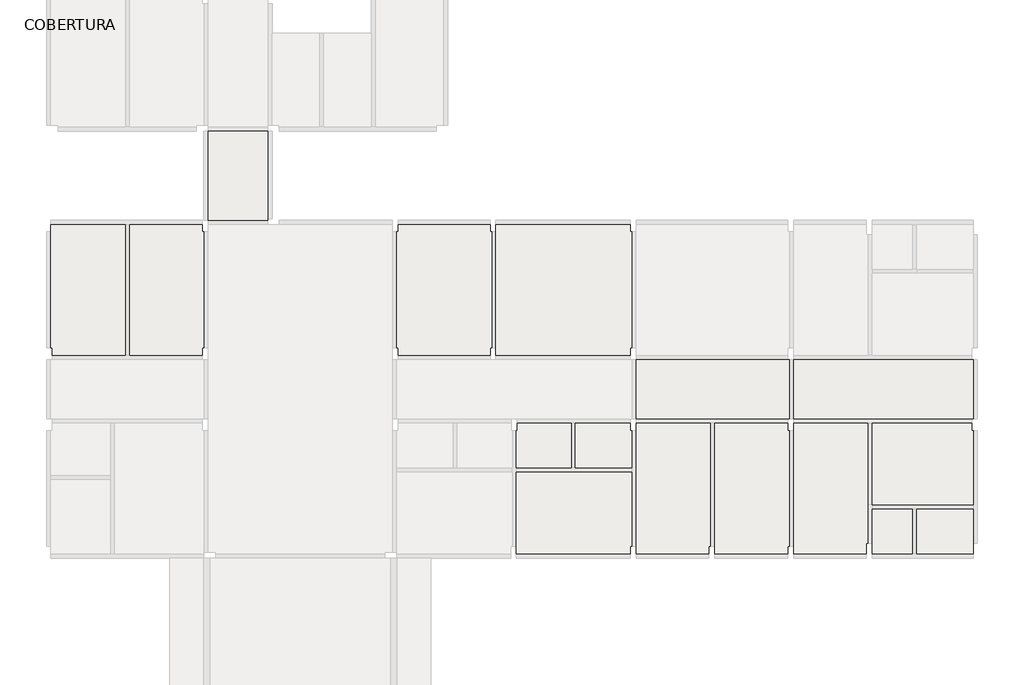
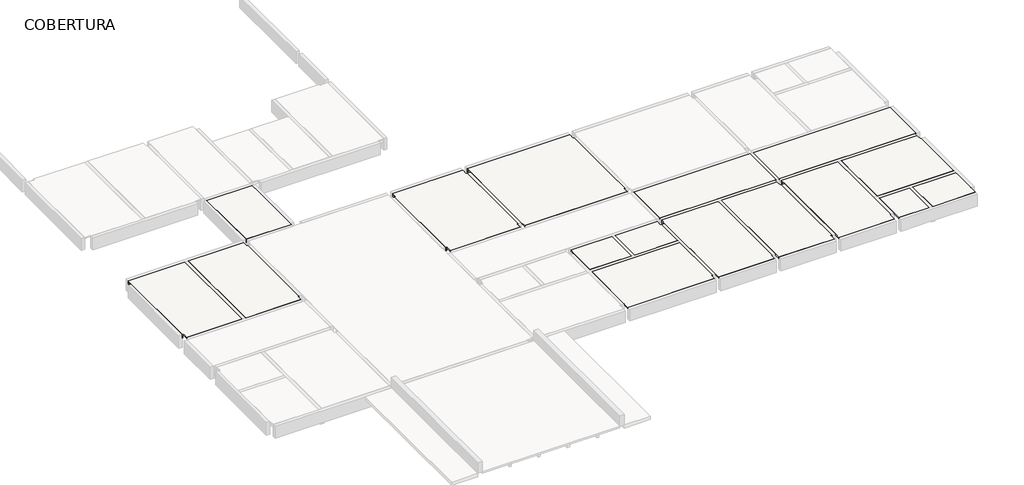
# One storey, part 2 of 5: 32 slabs.
"""IFC4 building model written with IfcOpenShell, lengths in millimetres."""

from ifc_helpers import new_model, si_unit, frame, origin, place, context, project, spatial, polyline, outline, extrude, faceted_brep, element, save

model = new_model("IFC4")

# Units and contexts
model_context = context("Model", 3, world=origin())
ifc_project = project(units=[si_unit("LENGTHUNIT", "METRE", prefix="MILLI")], contexts=[model_context])

# Site, building, storey
site = spatial("IfcSite", under=ifc_project)
building = spatial("IfcBuilding", under=site)
storey = spatial("IfcBuildingStorey", under=building, Name="COBERTURA", Elevation=4800.0)

# Slabs
placement = place(None, origin())
element("IfcSlab", 1, ObjectType="h=5", at=placement, inside=storey, context=model_context, shape_type="Brep", body=[
    faceted_brep([(200.0, 7100.0, 4750.0), (150.0, 7100.0, 4750.0), (150.0, 11250.0, 4750.0), (2650.0, 11250.0, 4750.0), (2650.0, 6850.0, 4750.0), (200.0, 6850.0, 4750.0), (200.0, 7100.0, 4800.0), (200.0, 6850.0, 4800.0), (2650.0, 6850.0, 4800.0), (2650.0, 11250.0, 4800.0), (150.0, 11250.0, 4800.0), (150.0, 11000.0, 4800.0), (150.0, 7100.0, 4800.0)], [[[0, 1, 2, 3, 4, 5]], [[6, 7, 8, 9, 10, 11, 12]], [[1, 0, 6, 12]], [[2, 1, 12, 11, 10]], [[3, 2, 10, 9]], [[4, 3, 9, 8]], [[5, 4, 8, 7]], [[0, 5, 7, 6]]]),
])
element("IfcSlab", 2, ObjectType="h=10", at=placement, inside=storey, context=model_context, shape_type="SweptSolid", body=[
    extrude(outline(polyline([(150.0, 7100.0), (150.0, 11250.0), (2650.0, 11250.0), (2650.0, 11170.0), (1450.0, 11170.0), (1450.0, 10770.0), (2650.0, 10770.0), (2650.0, 10680.0), (1450.0, 10680.0), (1450.0, 10280.0), (2650.0, 10280.0), (2650.0, 10190.0), (1450.0, 10190.0), (1450.0, 9790.0), (2650.0, 9790.0), (2650.0, 9700.0), (1450.0, 9700.0), (1450.0, 9300.0), (2650.0, 9300.0), (2650.0, 9210.0), (1450.0, 9210.0), (1450.0, 8810.0), (2650.0, 8810.0), (2650.0, 8720.0), (1450.0, 8720.0), (1450.0, 8320.0), (2650.0, 8320.0), (2650.0, 8230.0), (1450.0, 8230.0), (1450.0, 7830.0), (2650.0, 7830.0), (2650.0, 7740.0), (1450.0, 7740.0), (1450.0, 7340.0), (2650.0, 7340.0), (2650.0, 7250.0), (1450.0, 7250.0), (1450.0, 6850.0), (1360.0, 6850.0), (1360.0, 7250.0), (160.0, 7250.0), (160.0, 7100.0), (150.0, 7100.0)]), holes=[polyline([(1360.0, 7740.0), (160.0, 7740.0), (160.0, 7340.0), (1360.0, 7340.0), (1360.0, 7740.0)]), polyline([(1360.0, 8230.0), (160.0, 8230.0), (160.0, 7830.0), (1360.0, 7830.0), (1360.0, 8230.0)]), polyline([(1360.0, 8720.0), (160.0, 8720.0), (160.0, 8320.0), (1360.0, 8320.0), (1360.0, 8720.0)]), polyline([(1360.0, 9210.0), (160.0, 9210.0), (160.0, 8810.0), (1360.0, 8810.0), (1360.0, 9210.0)]), polyline([(1360.0, 9700.0), (160.0, 9700.0), (160.0, 9300.0), (1360.0, 9300.0), (1360.0, 9700.0)]), polyline([(1360.0, 10190.0), (160.0, 10190.0), (160.0, 9790.0), (1360.0, 9790.0), (1360.0, 10190.0)]), polyline([(1360.0, 10680.0), (160.0, 10680.0), (160.0, 10280.0), (1360.0, 10280.0), (1360.0, 10680.0)]), polyline([(1360.0, 11170.0), (160.0, 11170.0), (160.0, 10770.0), (1360.0, 10770.0), (1360.0, 11170.0)])]), frame((0.0, 0.0, 4650.0), z_axis=(0.0, 0.0, 1.0), x_axis=(1.0, 0.0, 0.0)), (0.0, 0.0, 1.0), 100.0),
])
element("IfcSlab", 3, ObjectType="h=5", at=placement, inside=storey, context=model_context, shape_type="SweptSolid", body=[
    extrude(outline(polyline([(2800.0, 11250.0), (5250.0, 11250.0), (5250.0, 11000.0), (5300.0, 11000.0), (5300.0, 7100.0), (5250.0, 7100.0), (5250.0, 6850.0), (2800.0, 6850.0), (2800.0, 11250.0)])), frame((0.0, 0.0, 4750.0), z_axis=(0.0, 0.0, 1.0), x_axis=(1.0, 0.0, 0.0)), (0.0, 0.0, 1.0), 50.0),
])
element("IfcSlab", 4, ObjectType="h=10", at=placement, inside=storey, context=model_context, shape_type="SweptSolid", body=[
    extrude(outline(polyline([(2800.0, 11250.0), (5250.0, 11250.0), (5250.0, 11170.0), (4090.0, 11170.0), (4090.0, 10770.0), (5290.0, 10770.0), (5290.0, 11000.0), (5300.0, 11000.0), (5300.0, 7100.0), (5290.0, 7100.0), (5290.0, 7250.0), (4090.0, 7250.0), (4090.0, 6850.0), (4000.0, 6850.0), (4000.0, 7250.0), (2800.0, 7250.0), (2800.0, 7340.0), (4000.0, 7340.0), (4000.0, 7740.0), (2800.0, 7740.0), (2800.0, 7830.0), (4000.0, 7830.0), (4000.0, 8230.0), (2800.0, 8230.0), (2800.0, 8320.0), (4000.0, 8320.0), (4000.0, 8720.0), (2800.0, 8720.0), (2800.0, 8810.0), (4000.0, 8810.0), (4000.0, 9210.0), (2800.0, 9210.0), (2800.0, 9300.0), (4000.0, 9300.0), (4000.0, 9700.0), (2800.0, 9700.0), (2800.0, 9790.0), (4000.0, 9790.0), (4000.0, 10190.0), (2800.0, 10190.0), (2800.0, 10280.0), (4000.0, 10280.0), (4000.0, 10680.0), (2800.0, 10680.0), (2800.0, 10770.0), (4000.0, 10770.0), (4000.0, 11170.0), (2800.0, 11170.0), (2800.0, 11250.0)]), holes=[polyline([(5290.0, 7740.0), (4090.0, 7740.0), (4090.0, 7340.0), (5290.0, 7340.0), (5290.0, 7740.0)]), polyline([(5290.0, 8230.0), (4090.0, 8230.0), (4090.0, 7830.0), (5290.0, 7830.0), (5290.0, 8230.0)]), polyline([(5290.0, 8720.0), (4090.0, 8720.0), (4090.0, 8320.0), (5290.0, 8320.0), (5290.0, 8720.0)]), polyline([(5290.0, 9210.0), (4090.0, 9210.0), (4090.0, 8810.0), (5290.0, 8810.0), (5290.0, 9210.0)]), polyline([(5290.0, 9700.0), (4090.0, 9700.0), (4090.0, 9300.0), (5290.0, 9300.0), (5290.0, 9700.0)]), polyline([(5290.0, 10190.0), (4090.0, 10190.0), (4090.0, 9790.0), (5290.0, 9790.0), (5290.0, 10190.0)]), polyline([(5290.0, 10680.0), (4090.0, 10680.0), (4090.0, 10280.0), (5290.0, 10280.0), (5290.0, 10680.0)])]), frame((0.0, 0.0, 4650.0), z_axis=(0.0, 0.0, 1.0), x_axis=(1.0, 0.0, 0.0)), (0.0, 0.0, 1.0), 100.0),
])
element("IfcSlab", 5, ObjectType="h=5", at=placement, inside=storey, context=model_context, shape_type="SweptSolid", body=[
    extrude(outline(polyline([(15865.0, 4550.0), (17680.0, 4550.0), (17680.0, 3050.0), (15840.0, 3050.0), (15840.0, 4300.0), (15865.0, 4300.0), (15865.0, 4550.0)])), frame((0.0, 0.0, 4750.0), z_axis=(0.0, 0.0, 1.0), x_axis=(1.0, 0.0, 0.0)), (0.0, 0.0, 1.0), 50.0),
])
element("IfcSlab", 6, ObjectType="h=10", at=placement, inside=storey, context=model_context, shape_type="SweptSolid", body=[
    extrude(outline(polyline([(15840.0, 4300.0), (15865.0, 4300.0), (15865.0, 4340.0), (16210.0, 4340.0), (16210.0, 4550.0), (16300.0, 4550.0), (16300.0, 4340.0), (16700.0, 4340.0), (16700.0, 4550.0), (16790.0, 4550.0), (16790.0, 4340.0), (17190.0, 4340.0), (17190.0, 4550.0), (17280.0, 4550.0), (17280.0, 4340.0), (17680.0, 4340.0), (17680.0, 4250.0), (17280.0, 4250.0), (17280.0, 3050.0), (17190.0, 3050.0), (17190.0, 4250.0), (16790.0, 4250.0), (16790.0, 3050.0), (16700.0, 3050.0), (16700.0, 4250.0), (16300.0, 4250.0), (16300.0, 3050.0), (16210.0, 3050.0), (16210.0, 4250.0), (15840.0, 4250.0), (15840.0, 4300.0)])), frame((0.0, 0.0, 4650.0), z_axis=(0.0, 0.0, 1.0), x_axis=(1.0, 0.0, 0.0)), (0.0, 0.0, 1.0), 100.0),
])
element("IfcSlab", 7, ObjectType="h=5", at=placement, inside=storey, context=model_context, shape_type="SweptSolid", body=[
    extrude(outline(polyline([(17830.0, 4550.0), (19680.0, 4550.0), (19680.0, 4300.0), (19730.0, 4300.0), (19730.0, 3050.0), (17830.0, 3050.0), (17830.0, 4550.0)])), frame((0.0, 0.0, 4750.0), z_axis=(0.0, 0.0, 1.0), x_axis=(1.0, 0.0, 0.0)), (0.0, 0.0, 1.0), 50.0),
])
element("IfcSlab", 8, ObjectType="h=10", at=placement, inside=storey, context=model_context, shape_type="SweptSolid", body=[
    extrude(outline(polyline([(19680.0, 4300.0), (19730.0, 4300.0), (19730.0, 3050.0), (19700.0, 3050.0), (19700.0, 4250.0), (19300.0, 4250.0), (19300.0, 3050.0), (19210.0, 3050.0), (19210.0, 4250.0), (18810.0, 4250.0), (18810.0, 3050.0), (18720.0, 3050.0), (18720.0, 4250.0), (18320.0, 4250.0), (18320.0, 3050.0), (18230.0, 3050.0), (18230.0, 4250.0), (17830.0, 4250.0), (17830.0, 4340.0), (18230.0, 4340.0), (18230.0, 4550.0), (18320.0, 4550.0), (18320.0, 4340.0), (18720.0, 4340.0), (18720.0, 4550.0), (18810.0, 4550.0), (18810.0, 4340.0), (19210.0, 4340.0), (19210.0, 4550.0), (19300.0, 4550.0), (19300.0, 4340.0), (19680.0, 4340.0), (19680.0, 4300.0)])), frame((0.0, 0.0, 4650.0), z_axis=(0.0, 0.0, 1.0), x_axis=(1.0, 0.0, 0.0)), (0.0, 0.0, 1.0), 100.0),
])
element("IfcSlab", 9, ObjectType="h=5", at=placement, inside=storey, context=model_context, shape_type="Brep", body=[
    faceted_brep([(19680.0, 150.0, 4750.0), (15840.0, 150.0, 4750.0), (15840.0, 2900.0, 4750.0), (19730.0, 2900.0, 4750.0), (19730.0, 400.0, 4750.0), (19680.0, 400.0, 4750.0), (19680.0, 150.0, 4800.0), (19680.0, 400.0, 4800.0), (19730.0, 400.0, 4800.0), (19730.0, 2900.0, 4800.0), (15840.0, 2900.0, 4800.0), (15840.0, 400.0, 4800.0), (15840.0, 150.0, 4800.0)], [[[0, 1, 2, 3, 4, 5]], [[6, 7, 8, 9, 10, 11, 12]], [[1, 0, 6, 12]], [[2, 1, 12, 11, 10]], [[3, 2, 10, 9]], [[4, 3, 9, 8]], [[5, 4, 8, 7]], [[0, 5, 7, 6]]]),
])
element("IfcSlab", 10, ObjectType="h=10", at=placement, inside=storey, context=model_context, shape_type="SweptSolid", body=[
    extrude(outline(polyline([(19730.0, 2900.0), (19730.0, 400.0), (19680.0, 400.0), (19680.0, 150.0), (19670.0, 150.0), (19670.0, 1350.0), (19270.0, 1350.0), (19270.0, 150.0), (19180.0, 150.0), (19180.0, 1350.0), (18780.0, 1350.0), (18780.0, 150.0), (18690.0, 150.0), (18690.0, 1350.0), (18290.0, 1350.0), (18290.0, 150.0), (18200.0, 150.0), (18200.0, 1350.0), (17800.0, 1350.0), (17800.0, 150.0), (17710.0, 150.0), (17710.0, 1350.0), (17310.0, 1350.0), (17310.0, 150.0), (17220.0, 150.0), (17220.0, 1350.0), (16820.0, 1350.0), (16820.0, 150.0), (16730.0, 150.0), (16730.0, 1350.0), (16330.0, 1350.0), (16330.0, 150.0), (16240.0, 150.0), (16240.0, 1350.0), (15840.0, 1350.0), (15840.0, 1440.0), (16240.0, 1440.0), (16240.0, 2640.0), (15840.0, 2640.0), (15840.0, 2730.0), (16240.0, 2730.0), (16240.0, 2900.0), (16330.0, 2900.0), (16330.0, 2730.0), (16730.0, 2730.0), (16730.0, 2900.0), (16820.0, 2900.0), (16820.0, 2730.0), (17220.0, 2730.0), (17220.0, 2900.0), (17310.0, 2900.0), (17310.0, 2730.0), (17710.0, 2730.0), (17710.0, 2900.0), (17800.0, 2900.0), (17800.0, 2730.0), (18200.0, 2730.0), (18200.0, 2900.0), (18290.0, 2900.0), (18290.0, 2730.0), (18690.0, 2730.0), (18690.0, 2900.0), (18780.0, 2900.0), (18780.0, 2730.0), (19180.0, 2730.0), (19180.0, 2900.0), (19270.0, 2900.0), (19270.0, 2730.0), (19670.0, 2730.0), (19670.0, 2900.0), (19730.0, 2900.0)]), holes=[polyline([(19270.0, 2640.0), (19270.0, 1440.0), (19670.0, 1440.0), (19670.0, 2640.0), (19270.0, 2640.0)]), polyline([(18780.0, 2640.0), (18780.0, 1440.0), (19180.0, 1440.0), (19180.0, 2640.0), (18780.0, 2640.0)]), polyline([(18290.0, 2640.0), (18290.0, 1440.0), (18690.0, 1440.0), (18690.0, 2640.0), (18290.0, 2640.0)]), polyline([(17800.0, 2640.0), (17800.0, 1440.0), (18200.0, 1440.0), (18200.0, 2640.0), (17800.0, 2640.0)]), polyline([(17310.0, 2640.0), (17310.0, 1440.0), (17710.0, 1440.0), (17710.0, 2640.0), (17310.0, 2640.0)]), polyline([(16820.0, 2640.0), (16820.0, 1440.0), (17220.0, 1440.0), (17220.0, 2640.0), (16820.0, 2640.0)]), polyline([(16330.0, 2640.0), (16330.0, 1440.0), (16730.0, 1440.0), (16730.0, 2640.0), (16330.0, 2640.0)])]), frame((0.0, 0.0, 4650.0), z_axis=(0.0, 0.0, 1.0), x_axis=(1.0, 0.0, 0.0)), (0.0, 0.0, 1.0), 100.0),
])
element("IfcSlab", 11, ObjectType="h=5", at=placement, inside=storey, context=model_context, shape_type="Brep", body=[
    faceted_brep([(22330.0, 150.0, 4750.0), (19880.0, 150.0, 4750.0), (19880.0, 4550.0, 4750.0), (22380.0, 4550.0, 4750.0), (22380.0, 400.0, 4750.0), (22330.0, 400.0, 4750.0), (22330.0, 150.0, 4800.0), (22330.0, 400.0, 4800.0), (22380.0, 400.0, 4800.0), (22380.0, 4550.0, 4800.0), (19880.0, 4550.0, 4800.0), (19880.0, 4300.0, 4800.0), (19880.0, 400.0, 4800.0), (19880.0, 150.0, 4800.0)], [[[0, 1, 2, 3, 4, 5]], [[6, 7, 8, 9, 10, 11, 12, 13]], [[1, 0, 6, 13]], [[2, 1, 13, 12, 11, 10]], [[3, 2, 10, 9]], [[4, 3, 9, 8]], [[5, 4, 8, 7]], [[0, 5, 7, 6]]]),
])
element("IfcSlab", 12, ObjectType="h=10", at=placement, inside=storey, context=model_context, shape_type="SweptSolid", body=[
    extrude(outline(polyline([(19880.0, 4550.0), (22380.0, 4550.0), (22380.0, 400.0), (22370.0, 400.0), (22370.0, 550.0), (21170.0, 550.0), (21170.0, 150.0), (21080.0, 150.0), (21080.0, 550.0), (19880.0, 550.0), (19880.0, 640.0), (21080.0, 640.0), (21080.0, 1040.0), (19880.0, 1040.0), (19880.0, 1130.0), (21080.0, 1130.0), (21080.0, 1530.0), (19880.0, 1530.0), (19880.0, 1620.0), (21080.0, 1620.0), (21080.0, 2020.0), (19880.0, 2020.0), (19880.0, 2110.0), (21080.0, 2110.0), (21080.0, 2510.0), (19880.0, 2510.0), (19880.0, 2600.0), (21080.0, 2600.0), (21080.0, 3000.0), (19880.0, 3000.0), (19880.0, 3090.0), (21080.0, 3090.0), (21080.0, 3490.0), (19880.0, 3490.0), (19880.0, 3580.0), (21080.0, 3580.0), (21080.0, 3980.0), (19880.0, 3980.0), (19880.0, 4070.0), (21080.0, 4070.0), (21080.0, 4470.0), (19880.0, 4470.0), (19880.0, 4550.0)]), holes=[polyline([(22370.0, 1040.0), (21170.0, 1040.0), (21170.0, 640.0), (22370.0, 640.0), (22370.0, 1040.0)]), polyline([(22370.0, 1530.0), (21170.0, 1530.0), (21170.0, 1130.0), (22370.0, 1130.0), (22370.0, 1530.0)]), polyline([(22370.0, 2020.0), (21170.0, 2020.0), (21170.0, 1620.0), (22370.0, 1620.0), (22370.0, 2020.0)]), polyline([(22370.0, 2510.0), (21170.0, 2510.0), (21170.0, 2110.0), (22370.0, 2110.0), (22370.0, 2510.0)]), polyline([(22370.0, 3000.0), (21170.0, 3000.0), (21170.0, 2600.0), (22370.0, 2600.0), (22370.0, 3000.0)]), polyline([(22370.0, 3490.0), (21170.0, 3490.0), (21170.0, 3090.0), (22370.0, 3090.0), (22370.0, 3490.0)]), polyline([(22370.0, 3980.0), (21170.0, 3980.0), (21170.0, 3580.0), (22370.0, 3580.0), (22370.0, 3980.0)]), polyline([(22370.0, 4470.0), (21170.0, 4470.0), (21170.0, 4070.0), (22370.0, 4070.0), (22370.0, 4470.0)])]), frame((0.0, 0.0, 4650.0), z_axis=(0.0, 0.0, 1.0), x_axis=(1.0, 0.0, 0.0)), (0.0, 0.0, 1.0), 100.0),
])
element("IfcSlab", 13, ObjectType="h=5", at=placement, inside=storey, context=model_context, shape_type="Brep", body=[
    faceted_brep([(24980.0, 150.0, 4750.0), (22530.0, 150.0, 4750.0), (22530.0, 4550.0, 4750.0), (24980.0, 4550.0, 4750.0), (24980.0, 4300.0, 4750.0), (25030.0, 4300.0, 4750.0), (25030.0, 400.0, 4750.0), (24980.0, 400.0, 4750.0), (24980.0, 150.0, 4800.0), (24980.0, 400.0, 4800.0), (25030.0, 400.0, 4800.0), (25030.0, 4300.0, 4800.0), (24980.0, 4300.0, 4800.0), (24980.0, 4550.0, 4800.0), (22530.0, 4550.0, 4800.0), (22530.0, 400.0, 4800.0), (22530.0, 150.0, 4800.0)], [[[0, 1, 2, 3, 4, 5, 6, 7]], [[8, 9, 10, 11, 12, 13, 14, 15, 16]], [[1, 0, 8, 16]], [[2, 1, 16, 15, 14]], [[3, 2, 14, 13]], [[4, 3, 13, 12]], [[5, 4, 12, 11]], [[6, 5, 11, 10]], [[7, 6, 10, 9]], [[0, 7, 9, 8]]]),
])
element("IfcSlab", 14, ObjectType="h=10", at=placement, inside=storey, context=model_context, shape_type="SweptSolid", body=[
    extrude(outline(polyline([(22530.0, 4550.0), (24980.0, 4550.0), (24980.0, 4470.0), (23820.0, 4470.0), (23820.0, 4070.0), (25020.0, 4070.0), (25020.0, 4300.0), (25030.0, 4300.0), (25030.0, 400.0), (25020.0, 400.0), (25020.0, 550.0), (23820.0, 550.0), (23820.0, 150.0), (23730.0, 150.0), (23730.0, 550.0), (22530.0, 550.0), (22530.0, 640.0), (23730.0, 640.0), (23730.0, 1040.0), (22530.0, 1040.0), (22530.0, 1130.0), (23730.0, 1130.0), (23730.0, 1530.0), (22530.0, 1530.0), (22530.0, 1620.0), (23730.0, 1620.0), (23730.0, 2020.0), (22530.0, 2020.0), (22530.0, 2110.0), (23730.0, 2110.0), (23730.0, 2510.0), (22530.0, 2510.0), (22530.0, 2600.0), (23730.0, 2600.0), (23730.0, 3000.0), (22530.0, 3000.0), (22530.0, 3090.0), (23730.0, 3090.0), (23730.0, 3490.0), (22530.0, 3490.0), (22530.0, 3580.0), (23730.0, 3580.0), (23730.0, 3980.0), (22530.0, 3980.0), (22530.0, 4070.0), (23730.0, 4070.0), (23730.0, 4470.0), (22530.0, 4470.0), (22530.0, 4550.0)]), holes=[polyline([(25020.0, 1040.0), (23820.0, 1040.0), (23820.0, 640.0), (25020.0, 640.0), (25020.0, 1040.0)]), polyline([(25020.0, 1530.0), (23820.0, 1530.0), (23820.0, 1130.0), (25020.0, 1130.0), (25020.0, 1530.0)]), polyline([(25020.0, 2020.0), (23820.0, 2020.0), (23820.0, 1620.0), (25020.0, 1620.0), (25020.0, 2020.0)]), polyline([(25020.0, 2510.0), (23820.0, 2510.0), (23820.0, 2110.0), (25020.0, 2110.0), (25020.0, 2510.0)]), polyline([(25020.0, 3000.0), (23820.0, 3000.0), (23820.0, 2600.0), (25020.0, 2600.0), (25020.0, 3000.0)]), polyline([(25020.0, 3490.0), (23820.0, 3490.0), (23820.0, 3090.0), (25020.0, 3090.0), (25020.0, 3490.0)]), polyline([(25020.0, 3980.0), (23820.0, 3980.0), (23820.0, 3580.0), (25020.0, 3580.0), (25020.0, 3980.0)])]), frame((0.0, 0.0, 4650.0), z_axis=(0.0, 0.0, 1.0), x_axis=(1.0, 0.0, 0.0)), (0.0, 0.0, 1.0), 100.0),
])
element("IfcSlab", 15, ObjectType="h=5", at=placement, inside=storey, context=model_context, shape_type="Brep", body=[
    faceted_brep([(27630.0, 150.0, 4750.0), (25180.0, 150.0, 4750.0), (25180.0, 4550.0, 4750.0), (27680.0, 4550.0, 4750.0), (27680.0, 500.0, 4750.0), (27630.0, 500.0, 4750.0), (27630.0, 150.0, 4800.0), (27630.0, 500.0, 4800.0), (27680.0, 500.0, 4800.0), (27680.0, 1800.0, 4800.0), (27680.0, 4550.0, 4800.0), (25180.0, 4550.0, 4800.0), (25180.0, 4300.0, 4800.0), (25180.0, 400.0, 4800.0), (25180.0, 150.0, 4800.0)], [[[0, 1, 2, 3, 4, 5]], [[6, 7, 8, 9, 10, 11, 12, 13, 14]], [[1, 0, 6, 14]], [[2, 1, 14, 13, 12, 11]], [[3, 2, 11, 10]], [[4, 3, 10, 9, 8]], [[5, 4, 8, 7]], [[0, 5, 7, 6]]]),
])
element("IfcSlab", 16, ObjectType="h=10", at=placement, inside=storey, context=model_context, shape_type="SweptSolid", body=[
    extrude(outline(polyline([(25180.0, 4550.0), (27680.0, 4550.0), (27680.0, 500.0), (27670.0, 500.0), (27670.0, 550.0), (26470.0, 550.0), (26470.0, 150.0), (26380.0, 150.0), (26380.0, 550.0), (25180.0, 550.0), (25180.0, 640.0), (26380.0, 640.0), (26380.0, 1040.0), (25180.0, 1040.0), (25180.0, 1130.0), (26380.0, 1130.0), (26380.0, 1530.0), (25180.0, 1530.0), (25180.0, 1620.0), (26380.0, 1620.0), (26380.0, 2020.0), (25180.0, 2020.0), (25180.0, 2110.0), (26380.0, 2110.0), (26380.0, 2510.0), (25180.0, 2510.0), (25180.0, 2600.0), (26380.0, 2600.0), (26380.0, 3000.0), (25180.0, 3000.0), (25180.0, 3090.0), (26380.0, 3090.0), (26380.0, 3490.0), (25180.0, 3490.0), (25180.0, 3580.0), (26380.0, 3580.0), (26380.0, 3980.0), (25180.0, 3980.0), (25180.0, 4070.0), (26380.0, 4070.0), (26380.0, 4470.0), (25180.0, 4470.0), (25180.0, 4550.0)]), holes=[polyline([(27670.0, 1040.0), (26470.0, 1040.0), (26470.0, 640.0), (27670.0, 640.0), (27670.0, 1040.0)]), polyline([(27670.0, 1530.0), (26470.0, 1530.0), (26470.0, 1130.0), (27670.0, 1130.0), (27670.0, 1530.0)]), polyline([(27670.0, 2020.0), (26470.0, 2020.0), (26470.0, 1620.0), (27670.0, 1620.0), (27670.0, 2020.0)]), polyline([(27670.0, 2510.0), (26470.0, 2510.0), (26470.0, 2110.0), (27670.0, 2110.0), (27670.0, 2510.0)]), polyline([(27670.0, 3000.0), (26470.0, 3000.0), (26470.0, 2600.0), (27670.0, 2600.0), (27670.0, 3000.0)]), polyline([(27670.0, 3490.0), (26470.0, 3490.0), (26470.0, 3090.0), (27670.0, 3090.0), (27670.0, 3490.0)]), polyline([(27670.0, 3980.0), (26470.0, 3980.0), (26470.0, 3580.0), (27670.0, 3580.0), (27670.0, 3980.0)]), polyline([(27670.0, 4470.0), (26470.0, 4470.0), (26470.0, 4070.0), (27670.0, 4070.0), (27670.0, 4470.0)])]), frame((0.0, 0.0, 4650.0), z_axis=(0.0, 0.0, 1.0), x_axis=(1.0, 0.0, 0.0)), (0.0, 0.0, 1.0), 100.0),
])
element("IfcSlab", 17, ObjectType="h=5", at=placement, inside=storey, context=model_context, shape_type="SweptSolid", body=[
    extrude(outline(polyline([(27830.0, 4550.0), (31180.0, 4550.0), (31180.0, 4300.0), (31230.0, 4300.0), (31230.0, 1800.0), (27830.0, 1800.0), (27830.0, 4550.0)])), frame((0.0, 0.0, 4750.0), z_axis=(0.0, 0.0, 1.0), x_axis=(1.0, 0.0, 0.0)), (0.0, 0.0, 1.0), 50.0),
])
element("IfcSlab", 18, ObjectType="h=10", at=placement, inside=storey, context=model_context, shape_type="SweptSolid", body=[
    extrude(outline(polyline([(31180.0, 4300.0), (31230.0, 4300.0), (31230.0, 4290.0), (30830.0, 4290.0), (30830.0, 3090.0), (31230.0, 3090.0), (31230.0, 3000.0), (30830.0, 3000.0), (30830.0, 1800.0), (30740.0, 1800.0), (30740.0, 3000.0), (30340.0, 3000.0), (30340.0, 1800.0), (30250.0, 1800.0), (30250.0, 3000.0), (29850.0, 3000.0), (29850.0, 1800.0), (29760.0, 1800.0), (29760.0, 3000.0), (29360.0, 3000.0), (29360.0, 1800.0), (29270.0, 1800.0), (29270.0, 3000.0), (28870.0, 3000.0), (28870.0, 1800.0), (28780.0, 1800.0), (28780.0, 3000.0), (28380.0, 3000.0), (28380.0, 1800.0), (28290.0, 1800.0), (28290.0, 3000.0), (27890.0, 3000.0), (27890.0, 1800.0), (27830.0, 1800.0), (27830.0, 4550.0), (27890.0, 4550.0), (27890.0, 4380.0), (28290.0, 4380.0), (28290.0, 4550.0), (28380.0, 4550.0), (28380.0, 4380.0), (28780.0, 4380.0), (28780.0, 4550.0), (28870.0, 4550.0), (28870.0, 4380.0), (29270.0, 4380.0), (29270.0, 4550.0), (29360.0, 4550.0), (29360.0, 4380.0), (29760.0, 4380.0), (29760.0, 4550.0), (29850.0, 4550.0), (29850.0, 4380.0), (30250.0, 4380.0), (30250.0, 4550.0), (30340.0, 4550.0), (30340.0, 4380.0), (30740.0, 4380.0), (30740.0, 4550.0), (30830.0, 4550.0), (30830.0, 4380.0), (31180.0, 4380.0), (31180.0, 4300.0)]), holes=[polyline([(30340.0, 4290.0), (30340.0, 3090.0), (30740.0, 3090.0), (30740.0, 4290.0), (30340.0, 4290.0)]), polyline([(29850.0, 4290.0), (29850.0, 3090.0), (30250.0, 3090.0), (30250.0, 4290.0), (29850.0, 4290.0)]), polyline([(29360.0, 4290.0), (29360.0, 3090.0), (29760.0, 3090.0), (29760.0, 4290.0), (29360.0, 4290.0)]), polyline([(28870.0, 4290.0), (28870.0, 3090.0), (29270.0, 3090.0), (29270.0, 4290.0), (28870.0, 4290.0)]), polyline([(28380.0, 4290.0), (28380.0, 3090.0), (28780.0, 3090.0), (28780.0, 4290.0), (28380.0, 4290.0)]), polyline([(27890.0, 4290.0), (27890.0, 3090.0), (28290.0, 3090.0), (28290.0, 4290.0), (27890.0, 4290.0)])]), frame((0.0, 0.0, 4650.0), z_axis=(0.0, 0.0, 1.0), x_axis=(1.0, 0.0, 0.0)), (0.0, 0.0, 1.0), 100.0),
])
element("IfcSlab", 19, ObjectType="h=5", at=placement, inside=storey, context=model_context, shape_type="Brep", body=[
    faceted_brep([(29180.0, 150.0, 4750.0), (27830.0, 150.0, 4750.0), (27830.0, 1650.0, 4750.0), (29180.0, 1650.0, 4750.0), (29180.0, 150.0, 4800.0), (29180.0, 1650.0, 4800.0), (27830.0, 1650.0, 4800.0), (27830.0, 500.0, 4800.0), (27830.0, 150.0, 4800.0)], [[[0, 1, 2, 3]], [[4, 5, 6, 7, 8]], [[1, 0, 4, 8]], [[2, 1, 8, 7, 6]], [[3, 2, 6, 5]], [[0, 3, 5, 4]]]),
])
element("IfcSlab", 20, ObjectType="h=10", at=placement, inside=storey, context=model_context, shape_type="SweptSolid", body=[
    extrude(outline(polyline([(28230.0, 150.0), (28230.0, 1350.0), (27830.0, 1350.0), (27830.0, 1440.0), (28230.0, 1440.0), (28230.0, 1650.0), (28320.0, 1650.0), (28320.0, 1440.0), (28720.0, 1440.0), (28720.0, 1650.0), (28810.0, 1650.0), (28810.0, 1440.0), (29180.0, 1440.0), (29180.0, 1350.0), (28810.0, 1350.0), (28810.0, 150.0), (28720.0, 150.0), (28720.0, 1350.0), (28320.0, 1350.0), (28320.0, 150.0), (28230.0, 150.0)])), frame((0.0, 0.0, 4650.0), z_axis=(0.0, 0.0, 1.0), x_axis=(1.0, 0.0, 0.0)), (0.0, 0.0, 1.0), 100.0),
])
element("IfcSlab", 21, ObjectType="h=5", at=placement, inside=storey, context=model_context, shape_type="Brep", body=[
    faceted_brep([(31230.0, 150.0, 4750.0), (29330.0, 150.0, 4750.0), (29330.0, 1650.0, 4750.0), (31230.0, 1650.0, 4750.0), (31230.0, 150.0, 4800.0), (31230.0, 500.0, 4800.0), (31230.0, 1650.0, 4800.0), (29330.0, 1650.0, 4800.0), (29330.0, 150.0, 4800.0)], [[[0, 1, 2, 3]], [[4, 5, 6, 7, 8]], [[1, 0, 4, 8]], [[2, 1, 8, 7]], [[3, 2, 7, 6]], [[0, 3, 6, 5, 4]]]),
])
element("IfcSlab", 22, ObjectType="h=10", at=placement, inside=storey, context=model_context, shape_type="SweptSolid", body=[
    extrude(outline(polyline([(31230.0, 1650.0), (31230.0, 150.0), (31200.0, 150.0), (31200.0, 1350.0), (30800.0, 1350.0), (30800.0, 150.0), (30710.0, 150.0), (30710.0, 1350.0), (30310.0, 1350.0), (30310.0, 150.0), (30220.0, 150.0), (30220.0, 1350.0), (29820.0, 1350.0), (29820.0, 150.0), (29730.0, 150.0), (29730.0, 1350.0), (29330.0, 1350.0), (29330.0, 1440.0), (29730.0, 1440.0), (29730.0, 1650.0), (29820.0, 1650.0), (29820.0, 1440.0), (30220.0, 1440.0), (30220.0, 1650.0), (30310.0, 1650.0), (30310.0, 1440.0), (30710.0, 1440.0), (30710.0, 1650.0), (30800.0, 1650.0), (30800.0, 1440.0), (31200.0, 1440.0), (31200.0, 1650.0), (31230.0, 1650.0)])), frame((0.0, 0.0, 4650.0), z_axis=(0.0, 0.0, 1.0), x_axis=(1.0, 0.0, 0.0)), (0.0, 0.0, 1.0), 100.0),
])
element("IfcSlab", 23, ObjectType="h=5", at=placement, inside=storey, context=model_context, shape_type="Brep", body=[
    faceted_brep([(31230.0, 4700.0, 4750.0), (25180.0, 4700.0, 4750.0), (25180.0, 6700.0, 4750.0), (31230.0, 6700.0, 4750.0), (31230.0, 4700.0, 4800.0), (31230.0, 6700.0, 4800.0), (31180.0, 6700.0, 4800.0), (25180.0, 6700.0, 4800.0), (25180.0, 4700.0, 4800.0), (31180.0, 4700.0, 4800.0)], [[[0, 1, 2, 3]], [[4, 5, 6, 7, 8, 9]], [[1, 0, 4, 9, 8]], [[2, 1, 8, 7]], [[3, 2, 7, 6, 5]], [[0, 3, 5, 4]]]),
])
element("IfcSlab", 24, ObjectType="h=10", at=placement, inside=storey, context=model_context, shape_type="SweptSolid", body=[
    extrude(outline(polyline([(30830.0, 5900.0), (30830.0, 4700.0), (30740.0, 4700.0), (30740.0, 5900.0), (30340.0, 5900.0), (30340.0, 4700.0), (30250.0, 4700.0), (30250.0, 5900.0), (29850.0, 5900.0), (29850.0, 4700.0), (29760.0, 4700.0), (29760.0, 5900.0), (29360.0, 5900.0), (29360.0, 4700.0), (29270.0, 4700.0), (29270.0, 5900.0), (28870.0, 5900.0), (28870.0, 4700.0), (28780.0, 4700.0), (28780.0, 5900.0), (28380.0, 5900.0), (28380.0, 4700.0), (28290.0, 4700.0), (28290.0, 5900.0), (27890.0, 5900.0), (27890.0, 4700.0), (27800.0, 4700.0), (27800.0, 5900.0), (27400.0, 5900.0), (27400.0, 4700.0), (27310.0, 4700.0), (27310.0, 5900.0), (26910.0, 5900.0), (26910.0, 4700.0), (26820.0, 4700.0), (26820.0, 5900.0), (26420.0, 5900.0), (26420.0, 4700.0), (26330.0, 4700.0), (26330.0, 5900.0), (25930.0, 5900.0), (25930.0, 4700.0), (25840.0, 4700.0), (25840.0, 5900.0), (25440.0, 5900.0), (25440.0, 4700.0), (25350.0, 4700.0), (25350.0, 5900.0), (25180.0, 5900.0), (25180.0, 5990.0), (25350.0, 5990.0), (25350.0, 6700.0), (25440.0, 6700.0), (25440.0, 5990.0), (25840.0, 5990.0), (25840.0, 6700.0), (25930.0, 6700.0), (25930.0, 5990.0), (26330.0, 5990.0), (26330.0, 6700.0), (26420.0, 6700.0), (26420.0, 5990.0), (26820.0, 5990.0), (26820.0, 6700.0), (26910.0, 6700.0), (26910.0, 5990.0), (27310.0, 5990.0), (27310.0, 6700.0), (27400.0, 6700.0), (27400.0, 5990.0), (27800.0, 5990.0), (27800.0, 6700.0), (27890.0, 6700.0), (27890.0, 5990.0), (28290.0, 5990.0), (28290.0, 6700.0), (28380.0, 6700.0), (28380.0, 5990.0), (28780.0, 5990.0), (28780.0, 6700.0), (28870.0, 6700.0), (28870.0, 5990.0), (29270.0, 5990.0), (29270.0, 6700.0), (29360.0, 6700.0), (29360.0, 5990.0), (29760.0, 5990.0), (29760.0, 6700.0), (29850.0, 6700.0), (29850.0, 5990.0), (30250.0, 5990.0), (30250.0, 6700.0), (30340.0, 6700.0), (30340.0, 5990.0), (30740.0, 5990.0), (30740.0, 6700.0), (30830.0, 6700.0), (30830.0, 5990.0), (31230.0, 5990.0), (31230.0, 5900.0), (30830.0, 5900.0)])), frame((0.0, 0.0, 4650.0), z_axis=(0.0, 0.0, 1.0), x_axis=(1.0, 0.0, 0.0)), (0.0, 0.0, 1.0), 100.0),
])
element("IfcSlab", 25, ObjectType="h=5", at=placement, inside=storey, context=model_context, shape_type="Brep", body=[
    faceted_brep([(25030.0, 4700.0, 4750.0), (19880.0, 4700.0, 4750.0), (19880.0, 6700.0, 4750.0), (25030.0, 6700.0, 4750.0), (25030.0, 4700.0, 4800.0), (25030.0, 6700.0, 4800.0), (24980.0, 6700.0, 4800.0), (19880.0, 6700.0, 4800.0), (19880.0, 4700.0, 4800.0), (24980.0, 4700.0, 4800.0)], [[[0, 1, 2, 3]], [[4, 5, 6, 7, 8, 9]], [[1, 0, 4, 9, 8]], [[2, 1, 8, 7]], [[3, 2, 7, 6, 5]], [[0, 3, 5, 4]]]),
])
element("IfcSlab", 26, ObjectType="h=10", at=placement, inside=storey, context=model_context, shape_type="SweptSolid", body=[
    extrude(outline(polyline([(24630.0, 5900.0), (24630.0, 4700.0), (24540.0, 4700.0), (24540.0, 5900.0), (24140.0, 5900.0), (24140.0, 4700.0), (24050.0, 4700.0), (24050.0, 5900.0), (23650.0, 5900.0), (23650.0, 4700.0), (23560.0, 4700.0), (23560.0, 5900.0), (23160.0, 5900.0), (23160.0, 4700.0), (23070.0, 4700.0), (23070.0, 5900.0), (22670.0, 5900.0), (22670.0, 4700.0), (22580.0, 4700.0), (22580.0, 5900.0), (22180.0, 5900.0), (22180.0, 4700.0), (22090.0, 4700.0), (22090.0, 5900.0), (21690.0, 5900.0), (21690.0, 4700.0), (21600.0, 4700.0), (21600.0, 5900.0), (21200.0, 5900.0), (21200.0, 4700.0), (21110.0, 4700.0), (21110.0, 5900.0), (20710.0, 5900.0), (20710.0, 4700.0), (20620.0, 4700.0), (20620.0, 5900.0), (20220.0, 5900.0), (20220.0, 4700.0), (20130.0, 4700.0), (20130.0, 5900.0), (19880.0, 5900.0), (19880.0, 5990.0), (20130.0, 5990.0), (20130.0, 6700.0), (20220.0, 6700.0), (20220.0, 5990.0), (20620.0, 5990.0), (20620.0, 6700.0), (20710.0, 6700.0), (20710.0, 5990.0), (21110.0, 5990.0), (21110.0, 6700.0), (21200.0, 6700.0), (21200.0, 5990.0), (21600.0, 5990.0), (21600.0, 6700.0), (21690.0, 6700.0), (21690.0, 5990.0), (22090.0, 5990.0), (22090.0, 6700.0), (22180.0, 6700.0), (22180.0, 5990.0), (22580.0, 5990.0), (22580.0, 6700.0), (22670.0, 6700.0), (22670.0, 5990.0), (23070.0, 5990.0), (23070.0, 6700.0), (23160.0, 6700.0), (23160.0, 5990.0), (23560.0, 5990.0), (23560.0, 6700.0), (23650.0, 6700.0), (23650.0, 5990.0), (24050.0, 5990.0), (24050.0, 6700.0), (24140.0, 6700.0), (24140.0, 5990.0), (24540.0, 5990.0), (24540.0, 6700.0), (24630.0, 6700.0), (24630.0, 5990.0), (25030.0, 5990.0), (25030.0, 5900.0), (24630.0, 5900.0)])), frame((0.0, 0.0, 4650.0), z_axis=(0.0, 0.0, 1.0), x_axis=(1.0, 0.0, 0.0)), (0.0, 0.0, 1.0), 100.0),
])
element("IfcSlab", 27, ObjectType="h=5", at=placement, inside=storey, context=model_context, shape_type="SweptSolid", body=[
    extrude(outline(polyline([(11850.0, 11250.0), (14950.0, 11250.0), (14950.0, 11000.0), (15000.0, 11000.0), (15000.0, 7100.0), (14950.0, 7100.0), (14950.0, 6850.0), (11850.0, 6850.0), (11850.0, 7100.0), (11800.0, 7100.0), (11800.0, 11000.0), (11850.0, 11000.0), (11850.0, 11250.0)])), frame((0.0, 0.0, 4750.0), z_axis=(0.0, 0.0, 1.0), x_axis=(1.0, 0.0, 0.0)), (0.0, 0.0, 1.0), 50.0),
])
element("IfcSlab", 28, ObjectType="h=10", at=placement, inside=storey, context=model_context, shape_type="SweptSolid", body=[
    extrude(outline(polyline([(11850.0, 11250.0), (14950.0, 11250.0), (14950.0, 11170.0), (14430.0, 11170.0), (14430.0, 10770.0), (14950.0, 10770.0), (14950.0, 11000.0), (15000.0, 11000.0), (15000.0, 10680.0), (14430.0, 10680.0), (14430.0, 10280.0), (15000.0, 10280.0), (15000.0, 10190.0), (14430.0, 10190.0), (14430.0, 9790.0), (15000.0, 9790.0), (15000.0, 9700.0), (14430.0, 9700.0), (14430.0, 9300.0), (15000.0, 9300.0), (15000.0, 9210.0), (14430.0, 9210.0), (14430.0, 8810.0), (15000.0, 8810.0), (15000.0, 8720.0), (14430.0, 8720.0), (14430.0, 8320.0), (15000.0, 8320.0), (15000.0, 8230.0), (14430.0, 8230.0), (14430.0, 7830.0), (15000.0, 7830.0), (15000.0, 7740.0), (14430.0, 7740.0), (14430.0, 7340.0), (15000.0, 7340.0), (15000.0, 7100.0), (14950.0, 7100.0), (14950.0, 7250.0), (14430.0, 7250.0), (14430.0, 6850.0), (14340.0, 6850.0), (14340.0, 7250.0), (13140.0, 7250.0), (13140.0, 6850.0), (13050.0, 6850.0), (13050.0, 7250.0), (11850.0, 7250.0), (11850.0, 7100.0), (11800.0, 7100.0), (11800.0, 11000.0), (11850.0, 11000.0), (11850.0, 10770.0), (13050.0, 10770.0), (13050.0, 11170.0), (11850.0, 11170.0), (11850.0, 11250.0)]), holes=[polyline([(13050.0, 7740.0), (11850.0, 7740.0), (11850.0, 7340.0), (13050.0, 7340.0), (13050.0, 7740.0)]), polyline([(14340.0, 7740.0), (13140.0, 7740.0), (13140.0, 7340.0), (14340.0, 7340.0), (14340.0, 7740.0)]), polyline([(13050.0, 8230.0), (11850.0, 8230.0), (11850.0, 7830.0), (13050.0, 7830.0), (13050.0, 8230.0)]), polyline([(14340.0, 8230.0), (13140.0, 8230.0), (13140.0, 7830.0), (14340.0, 7830.0), (14340.0, 8230.0)]), polyline([(13050.0, 8720.0), (11850.0, 8720.0), (11850.0, 8320.0), (13050.0, 8320.0), (13050.0, 8720.0)]), polyline([(14340.0, 8720.0), (13140.0, 8720.0), (13140.0, 8320.0), (14340.0, 8320.0), (14340.0, 8720.0)]), polyline([(13050.0, 9210.0), (11850.0, 9210.0), (11850.0, 8810.0), (13050.0, 8810.0), (13050.0, 9210.0)]), polyline([(14340.0, 9210.0), (13140.0, 9210.0), (13140.0, 8810.0), (14340.0, 8810.0), (14340.0, 9210.0)]), polyline([(13050.0, 9700.0), (11850.0, 9700.0), (11850.0, 9300.0), (13050.0, 9300.0), (13050.0, 9700.0)]), polyline([(14340.0, 9700.0), (13140.0, 9700.0), (13140.0, 9300.0), (14340.0, 9300.0), (14340.0, 9700.0)]), polyline([(13050.0, 10190.0), (11850.0, 10190.0), (11850.0, 9790.0), (13050.0, 9790.0), (13050.0, 10190.0)]), polyline([(14340.0, 10190.0), (13140.0, 10190.0), (13140.0, 9790.0), (14340.0, 9790.0), (14340.0, 10190.0)]), polyline([(13050.0, 10680.0), (11850.0, 10680.0), (11850.0, 10280.0), (13050.0, 10280.0), (13050.0, 10680.0)]), polyline([(14340.0, 10680.0), (13140.0, 10680.0), (13140.0, 10280.0), (14340.0, 10280.0), (14340.0, 10680.0)]), polyline([(14340.0, 11170.0), (13140.0, 11170.0), (13140.0, 10770.0), (14340.0, 10770.0), (14340.0, 11170.0)])]), frame((0.0, 0.0, 4650.0), z_axis=(0.0, 0.0, 1.0), x_axis=(1.0, 0.0, 0.0)), (0.0, 0.0, 1.0), 100.0),
])
element("IfcSlab", 29, ObjectType="h=5", at=placement, inside=storey, context=model_context, shape_type="Brep", body=[
    faceted_brep([(15150.0, 11250.0, 4750.0), (19680.0, 11250.0, 4750.0), (19680.0, 11000.0, 4750.0), (19730.0, 11000.0, 4750.0), (19730.0, 7100.0, 4750.0), (19680.0, 7100.0, 4750.0), (19680.0, 6850.0, 4750.0), (15150.0, 6850.0, 4750.0), (15150.0, 11250.0, 4800.0), (15150.0, 11000.0, 4800.0), (15150.0, 7100.0, 4800.0), (15150.0, 6850.0, 4800.0), (19680.0, 6850.0, 4800.0), (19680.0, 7100.0, 4800.0), (19730.0, 7100.0, 4800.0), (19730.0, 11000.0, 4800.0), (19680.0, 11000.0, 4800.0), (19680.0, 11250.0, 4800.0)], [[[0, 1, 2, 3, 4, 5, 6, 7]], [[8, 9, 10, 11, 12, 13, 14, 15, 16, 17]], [[1, 0, 8, 17]], [[2, 1, 17, 16]], [[3, 2, 16, 15]], [[4, 3, 15, 14]], [[5, 4, 14, 13]], [[6, 5, 13, 12]], [[7, 6, 12, 11]], [[0, 7, 11, 10, 9, 8]]]),
])
element("IfcSlab", 30, ObjectType="h=10", at=placement, inside=storey, context=model_context, shape_type="SweptSolid", body=[
    extrude(outline(polyline([(15150.0, 11250.0), (19680.0, 11250.0), (19680.0, 11170.0), (19020.0, 11170.0), (19020.0, 10770.0), (19680.0, 10770.0), (19680.0, 11000.0), (19730.0, 11000.0), (19730.0, 10680.0), (19020.0, 10680.0), (19020.0, 10280.0), (19730.0, 10280.0), (19730.0, 10190.0), (19020.0, 10190.0), (19020.0, 9790.0), (19730.0, 9790.0), (19730.0, 9700.0), (19020.0, 9700.0), (19020.0, 9300.0), (19730.0, 9300.0), (19730.0, 9210.0), (19020.0, 9210.0), (19020.0, 8810.0), (19730.0, 8810.0), (19730.0, 8720.0), (19020.0, 8720.0), (19020.0, 8320.0), (19730.0, 8320.0), (19730.0, 8230.0), (19020.0, 8230.0), (19020.0, 7830.0), (19730.0, 7830.0), (19730.0, 7740.0), (19020.0, 7740.0), (19020.0, 7340.0), (19730.0, 7340.0), (19730.0, 7100.0), (19680.0, 7100.0), (19680.0, 7250.0), (19020.0, 7250.0), (19020.0, 6850.0), (18930.0, 6850.0), (18930.0, 7250.0), (17730.0, 7250.0), (17730.0, 6850.0), (17640.0, 6850.0), (17640.0, 7250.0), (16440.0, 7250.0), (16440.0, 6850.0), (16350.0, 6850.0), (16350.0, 7250.0), (15150.0, 7250.0), (15150.0, 7340.0), (16350.0, 7340.0), (16350.0, 7740.0), (15150.0, 7740.0), (15150.0, 7830.0), (16350.0, 7830.0), (16350.0, 8230.0), (15150.0, 8230.0), (15150.0, 8320.0), (16350.0, 8320.0), (16350.0, 8720.0), (15150.0, 8720.0), (15150.0, 8810.0), (16350.0, 8810.0), (16350.0, 9210.0), (15150.0, 9210.0), (15150.0, 9300.0), (16350.0, 9300.0), (16350.0, 9700.0), (15150.0, 9700.0), (15150.0, 9790.0), (16350.0, 9790.0), (16350.0, 10190.0), (15150.0, 10190.0), (15150.0, 10280.0), (16350.0, 10280.0), (16350.0, 10680.0), (15150.0, 10680.0), (15150.0, 10770.0), (16350.0, 10770.0), (16350.0, 11170.0), (15150.0, 11170.0), (15150.0, 11250.0)]), holes=[polyline([(17640.0, 7740.0), (16440.0, 7740.0), (16440.0, 7340.0), (17640.0, 7340.0), (17640.0, 7740.0)]), polyline([(18930.0, 7740.0), (17730.0, 7740.0), (17730.0, 7340.0), (18930.0, 7340.0), (18930.0, 7740.0)]), polyline([(17640.0, 8230.0), (16440.0, 8230.0), (16440.0, 7830.0), (17640.0, 7830.0), (17640.0, 8230.0)]), polyline([(18930.0, 8230.0), (17730.0, 8230.0), (17730.0, 7830.0), (18930.0, 7830.0), (18930.0, 8230.0)]), polyline([(17640.0, 8720.0), (16440.0, 8720.0), (16440.0, 8320.0), (17640.0, 8320.0), (17640.0, 8720.0)]), polyline([(18930.0, 8720.0), (17730.0, 8720.0), (17730.0, 8320.0), (18930.0, 8320.0), (18930.0, 8720.0)]), polyline([(17640.0, 9210.0), (16440.0, 9210.0), (16440.0, 8810.0), (17640.0, 8810.0), (17640.0, 9210.0)]), polyline([(18930.0, 9210.0), (17730.0, 9210.0), (17730.0, 8810.0), (18930.0, 8810.0), (18930.0, 9210.0)]), polyline([(17640.0, 9700.0), (16440.0, 9700.0), (16440.0, 9300.0), (17640.0, 9300.0), (17640.0, 9700.0)]), polyline([(18930.0, 9700.0), (17730.0, 9700.0), (17730.0, 9300.0), (18930.0, 9300.0), (18930.0, 9700.0)]), polyline([(17640.0, 10190.0), (16440.0, 10190.0), (16440.0, 9790.0), (17640.0, 9790.0), (17640.0, 10190.0)]), polyline([(18930.0, 10190.0), (17730.0, 10190.0), (17730.0, 9790.0), (18930.0, 9790.0), (18930.0, 10190.0)]), polyline([(17640.0, 10680.0), (16440.0, 10680.0), (16440.0, 10280.0), (17640.0, 10280.0), (17640.0, 10680.0)]), polyline([(18930.0, 10680.0), (17730.0, 10680.0), (17730.0, 10280.0), (18930.0, 10280.0), (18930.0, 10680.0)]), polyline([(17640.0, 11170.0), (16440.0, 11170.0), (16440.0, 10770.0), (17640.0, 10770.0), (17640.0, 11170.0)]), polyline([(18930.0, 11170.0), (17730.0, 11170.0), (17730.0, 10770.0), (18930.0, 10770.0), (18930.0, 11170.0)])]), frame((0.0, 0.0, 4650.0), z_axis=(0.0, 0.0, 1.0), x_axis=(1.0, 0.0, 0.0)), (0.0, 0.0, 1.0), 100.0),
])
element("IfcSlab", 31, ObjectType="h=5", at=placement, inside=storey, context=model_context, shape_type="Brep", body=[
    faceted_brep([(5450.0, 14400.0, 4750.0), (7450.0, 14400.0, 4750.0), (7450.0, 11400.0, 4750.0), (5450.0, 11400.0, 4750.0), (5450.0, 14400.0, 4800.0), (5450.0, 11400.0, 4800.0), (7450.0, 11400.0, 4800.0), (7450.0, 11450.0, 4800.0), (7450.0, 14400.0, 4800.0)], [[[0, 1, 2, 3]], [[4, 5, 6, 7, 8]], [[1, 0, 4, 8]], [[2, 1, 8, 7, 6]], [[3, 2, 6, 5]], [[0, 3, 5, 4]]]),
])
element("IfcSlab", 32, ObjectType="h=10", at=placement, inside=storey, context=model_context, shape_type="SweptSolid", body=[
    extrude(outline(polyline([(7450.0, 11400.0), (5450.0, 11400.0), (5450.0, 11550.0), (6650.0, 11550.0), (6650.0, 11950.0), (5450.0, 11950.0), (5450.0, 12040.0), (6650.0, 12040.0), (6650.0, 12440.0), (5450.0, 12440.0), (5450.0, 12530.0), (6650.0, 12530.0), (6650.0, 12930.0), (5450.0, 12930.0), (5450.0, 13020.0), (6650.0, 13020.0), (6650.0, 13420.0), (5450.0, 13420.0), (5450.0, 13510.0), (6650.0, 13510.0), (6650.0, 13910.0), (5450.0, 13910.0), (5450.0, 14000.0), (6650.0, 14000.0), (6650.0, 14400.0), (6740.0, 14400.0), (6740.0, 14000.0), (7450.0, 14000.0), (7450.0, 13910.0), (6740.0, 13910.0), (6740.0, 13510.0), (7450.0, 13510.0), (7450.0, 13420.0), (6740.0, 13420.0), (6740.0, 13020.0), (7450.0, 13020.0), (7450.0, 12930.0), (6740.0, 12930.0), (6740.0, 12530.0), (7450.0, 12530.0), (7450.0, 12440.0), (6740.0, 12440.0), (6740.0, 12040.0), (7450.0, 12040.0), (7450.0, 11950.0), (6740.0, 11950.0), (6740.0, 11550.0), (7450.0, 11550.0), (7450.0, 11400.0)])), frame((0.0, 0.0, 4650.0), z_axis=(0.0, 0.0, 1.0), x_axis=(1.0, 0.0, 0.0)), (0.0, 0.0, 1.0), 100.0),
])

save(model, "model.ifc")
